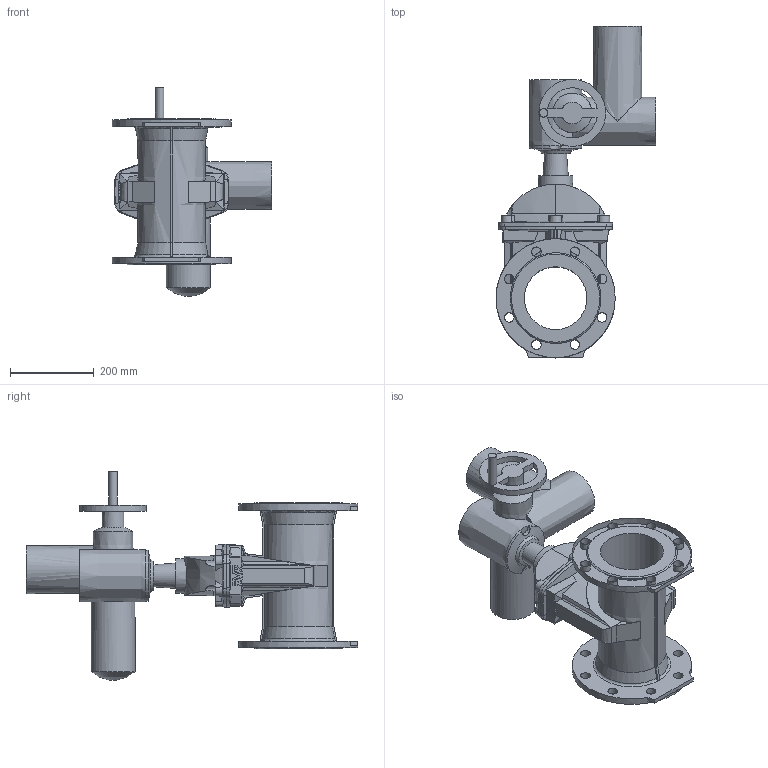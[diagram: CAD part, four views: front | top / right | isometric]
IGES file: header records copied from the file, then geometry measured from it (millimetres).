
Start section: SolidWorks IGES file using analytic representation for surfaces
Global section: file name: \\avksan2\techshare\PBM outline export from Enovia\O_15_72_DN150_X1XXX099_SA07.6_AA0.igs; native system: SolidWorks 2012; preprocessor: SolidWorks 2012; author: pbm; date: 170320.135339; units: inch
Bounding box: 382.5 x 793.5 x 499 mm (x, y, z)
Surface area: 1071573.9 mm2 (no closed solid volume)
Topology: 0 solids, 0 shells, 366 faces, 2165 edges, 2109 vertices
Faces by surface type: bspline 186, revolution 180
